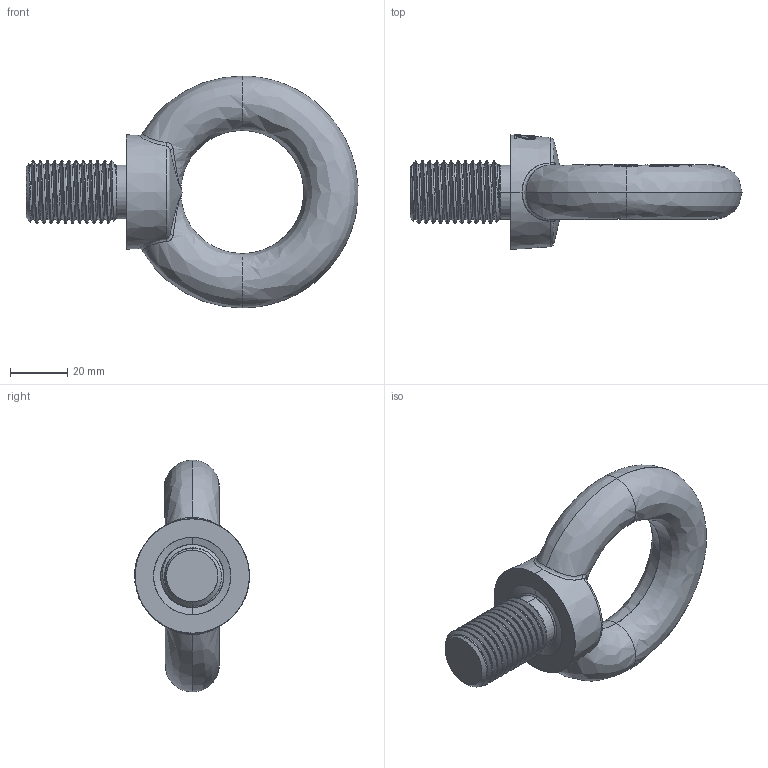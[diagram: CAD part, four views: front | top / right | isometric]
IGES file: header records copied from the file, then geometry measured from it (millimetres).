
Start section: SolidWorks IGES file using analytic representation for surfaces
Global section: file name: C:\Users\Brenton\Documents\Townley\IS Eye Bolt\M22\GPEBM22.IGS; native system: SolidWorks 2012; preprocessor: SolidWorks 2012; author: Brenton; date: 141219.145402; units: millimetre
Bounding box: 115.94 x 40.14 x 81 mm (x, y, z)
Surface area: 17063.4 mm2 (no closed solid volume)
Topology: 0 solids, 0 shells, 377 faces, 5783 edges, 5781 vertices
Faces by surface type: bspline 337, revolution 40
